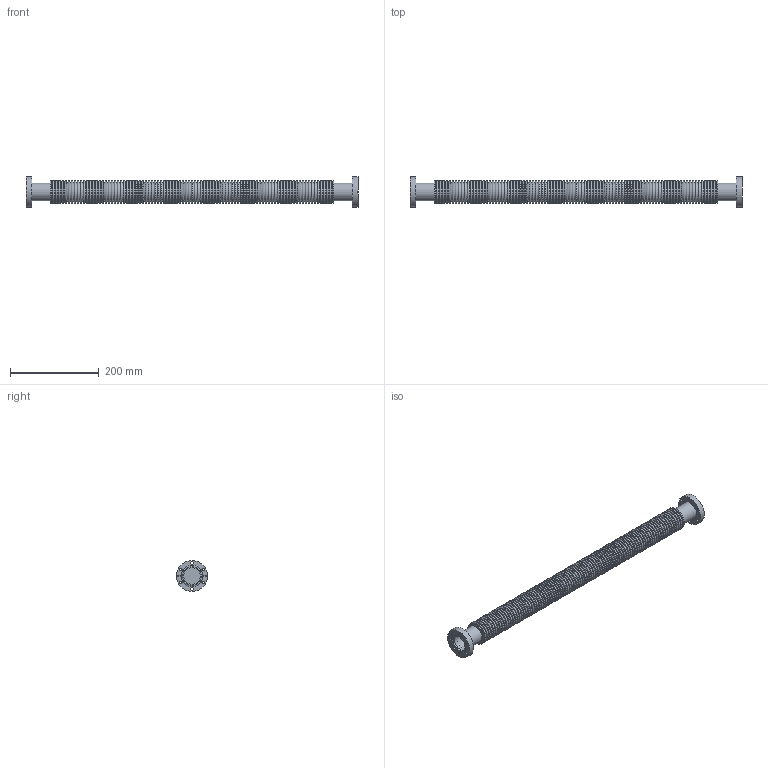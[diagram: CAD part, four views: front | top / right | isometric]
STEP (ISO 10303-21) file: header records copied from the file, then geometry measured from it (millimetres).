
FILE_DESCRIPTION( ( 'Unknown' ), '1' );
FILE_NAME( 'X:/Daten ( aktueller Bestand )/Projekte und Zeichnungen/Solid Edge/STP-Dateien/CF-Teile/7932R.stp', 'Unknown', ( 'Unknown' ), ( 'Unknown' ), 'PSStep 14.0', 'Unknown', ' ' );
FILE_SCHEMA( ( 'AUTOMOTIVE_DESIGN { 1 0 10303 214 1 1 1 1 }' ) );
Length unit declared in the file: millimetre
Products named in the file (7): 7512R4; 7512R3-1; 7512R4-2; Assem1; 7902R-1; 7512F4; 7932R-2
Assembly tree (7 placements, depth 3):
  Assem1
    7902R-1  x2
    7512F4
    7932R-2
    7512R4
      7512R3-1
      7512R4-2
Bounding box: 750 x 70 x 70 mm (x, y, z)
Volume: 1166562.9 mm3; surface area: 263014.3 mm2
Topology: 6 solids, 6 shells, 444 faces, 721 edges, 477 vertices
Faces by surface type: plane 204, torus 204, cylinder 32, cone 4
Full cylindrical faces by diameter (mm): 6 x6, 6.6 x6, 37 x4, 40 x2, 40.2 x2, 45.3 x1, 47.6 x2, 48 x1, 48.2 x1, 48.3 x1, 70 x2
Entity records: 12788 total; most frequent: DIRECTION 1796, CARTESIAN_POINT 1501, ORIENTED_EDGE 926, AXIS2_PLACEMENT_3D 894, EDGE_LOOP 890, FACE_OUTER_BOUND 667, EDGE_CURVE 463, VERTEX_POINT 455
